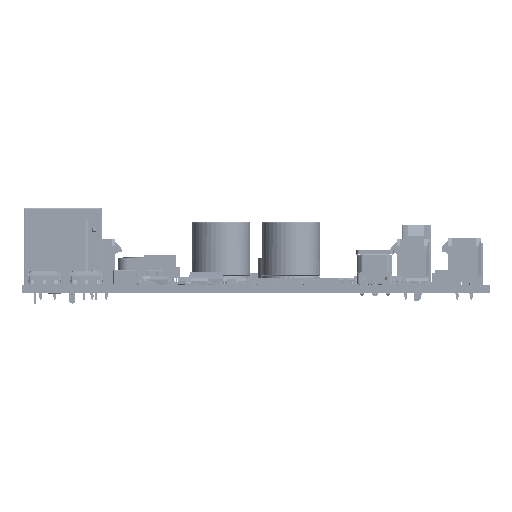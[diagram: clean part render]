
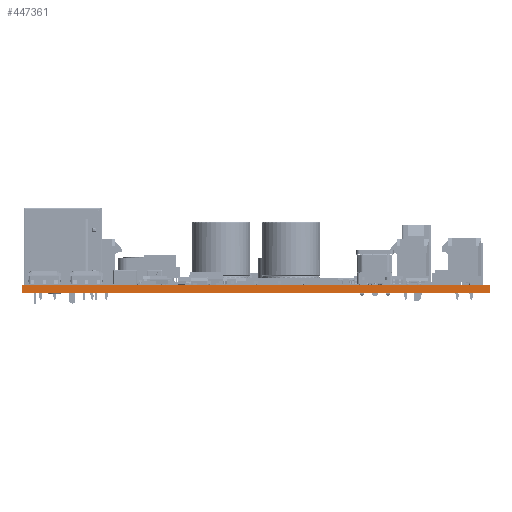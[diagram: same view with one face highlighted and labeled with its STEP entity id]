
A CAD part, left-side view. The second image highlights one B-rep face of the part: STEP entity #447361.
In plain terms, the highlighted planar face has unit normal (-1, 0, 0).
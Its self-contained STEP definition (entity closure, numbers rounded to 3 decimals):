
#36374=FACE_OUTER_BOUND('',#60739,.T.);
#60739=EDGE_LOOP('',(#298826,#298827,#298828,#298829));
#86303=LINE('',#637170,#138990);
#86307=LINE('',#637179,#138994);
#86308=LINE('',#637180,#138995);
#86309=LINE('',#637181,#138996);
#138990=VECTOR('',#514408,1.);
#138994=VECTOR('',#514414,1.);
#138995=VECTOR('',#514415,1.);
#138996=VECTOR('',#514416,1.);
#191677=VERTEX_POINT('',#637168);
#191678=VERTEX_POINT('',#637169);
#191681=VERTEX_POINT('',#637177);
#191682=VERTEX_POINT('',#637178);
#233867=EDGE_CURVE('',#191677,#191678,#86303,.T.);
#233871=EDGE_CURVE('',#191681,#191682,#86307,.T.);
#233872=EDGE_CURVE('',#191681,#191677,#86308,.T.);
#233873=EDGE_CURVE('',#191682,#191678,#86309,.T.);
#298826=ORIENTED_EDGE('',*,*,#233871,.F.);
#298827=ORIENTED_EDGE('',*,*,#233872,.T.);
#298828=ORIENTED_EDGE('',*,*,#233867,.T.);
#298829=ORIENTED_EDGE('',*,*,#233873,.F.);
#428733=PLANE('',#479367);
#447361=ADVANCED_FACE('',(#36374),#428733,.F.);
#479367=AXIS2_PLACEMENT_3D('',#637176,#514412,#514413);
#514408=DIRECTION('',(0.,0.,1.));
#514412=DIRECTION('center_axis',(1.,0.,0.));
#514413=DIRECTION('ref_axis',(0.,-1.,0.));
#514414=DIRECTION('',(0.,0.,1.));
#514415=DIRECTION('',(0.,-1.,0.));
#514416=DIRECTION('',(0.,-1.,0.));
#637168=CARTESIAN_POINT('',(0.,0.,-1.57));
#637169=CARTESIAN_POINT('',(0.,0.,0.));
#637170=CARTESIAN_POINT('',(0.,0.,-1.57));
#637176=CARTESIAN_POINT('Origin',(0.,100.,-1.57));
#637177=CARTESIAN_POINT('',(0.,100.,-1.57));
#637178=CARTESIAN_POINT('',(0.,100.,0.));
#637179=CARTESIAN_POINT('',(0.,100.,-1.57));
#637180=CARTESIAN_POINT('',(0.,100.,-1.57));
#637181=CARTESIAN_POINT('',(0.,100.,0.));
